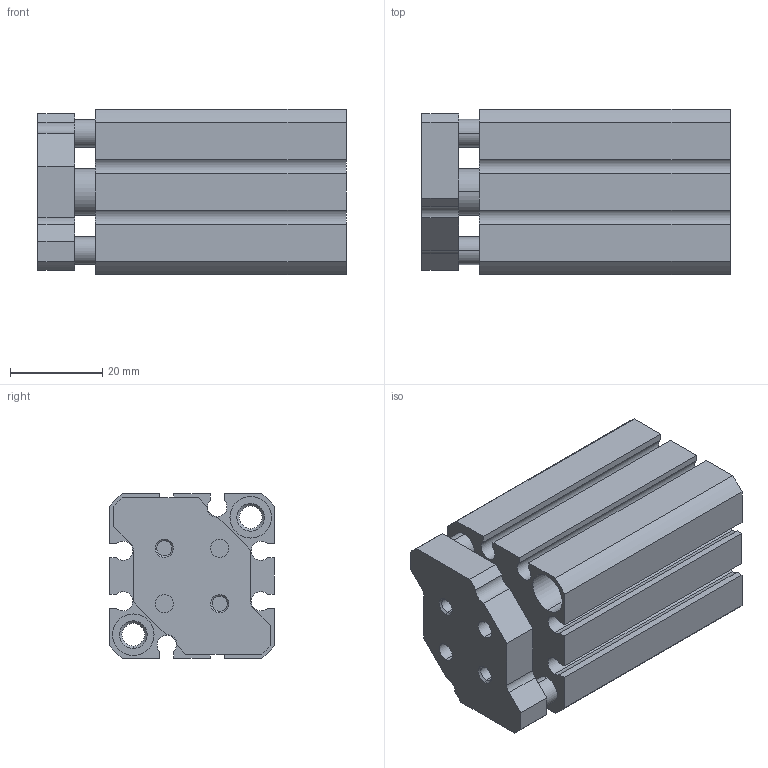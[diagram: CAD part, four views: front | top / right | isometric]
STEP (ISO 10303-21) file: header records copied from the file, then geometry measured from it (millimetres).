
FILE_DESCRIPTION (( 'STEP AP203' ), '1' );
FILE_NAME ('CCMG20-25.STEP', '2020-04-01T18:20:08', ( '' ), ( '' ), 'SwSTEP 2.0', 'SolidWorks 2019', '' );
FILE_SCHEMA (( 'CONFIG_CONTROL_DESIGN' ));
Length unit declared in the file: millimetre
Products named in the file (1): CCMG20-25
Bounding box: 67 x 36 x 36 mm (x, y, z)
Volume: 59263.4 mm3; surface area: 27460.5 mm2
Topology: 2 solids, 2 shells, 161 faces, 399 edges, 256 vertices
Faces by surface type: cylinder 77, plane 60, cone 24
Entity records: 4886 total; most frequent: DIRECTION 893, CARTESIAN_POINT 813, ORIENTED_EDGE 790, EDGE_CURVE 395, AXIS2_PLACEMENT_3D 336, VERTEX_POINT 256, LINE 221, VECTOR 221
